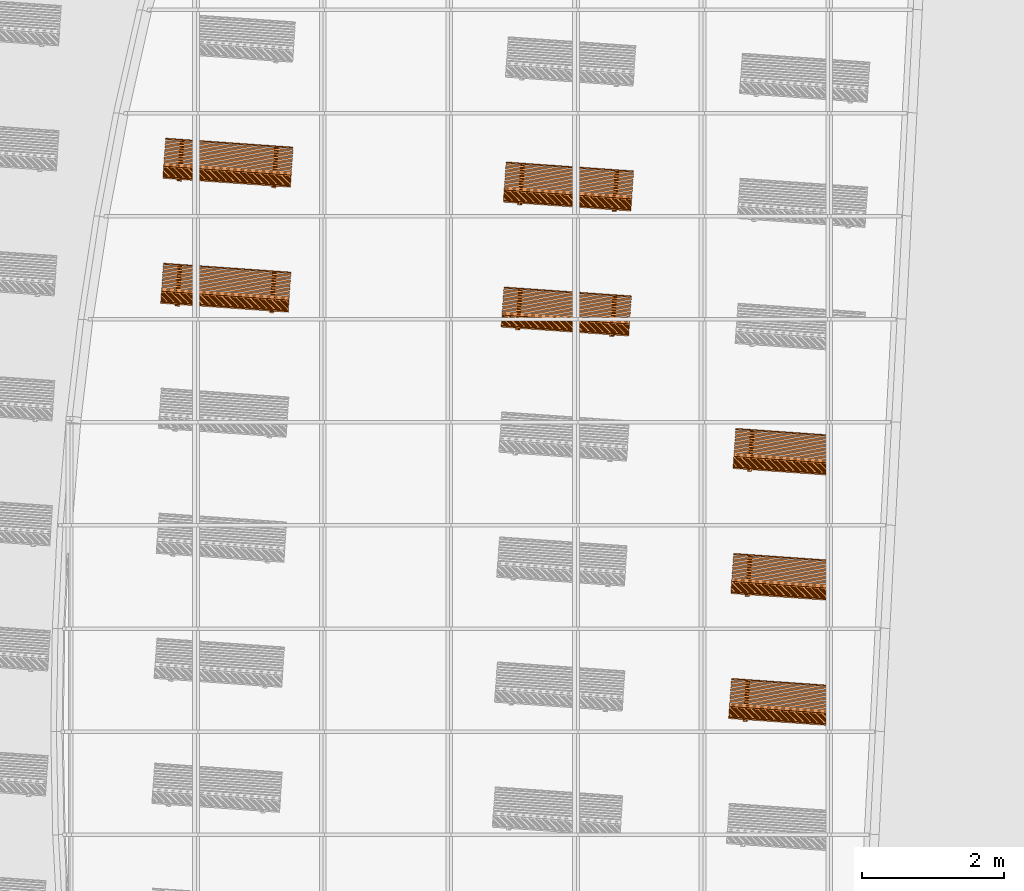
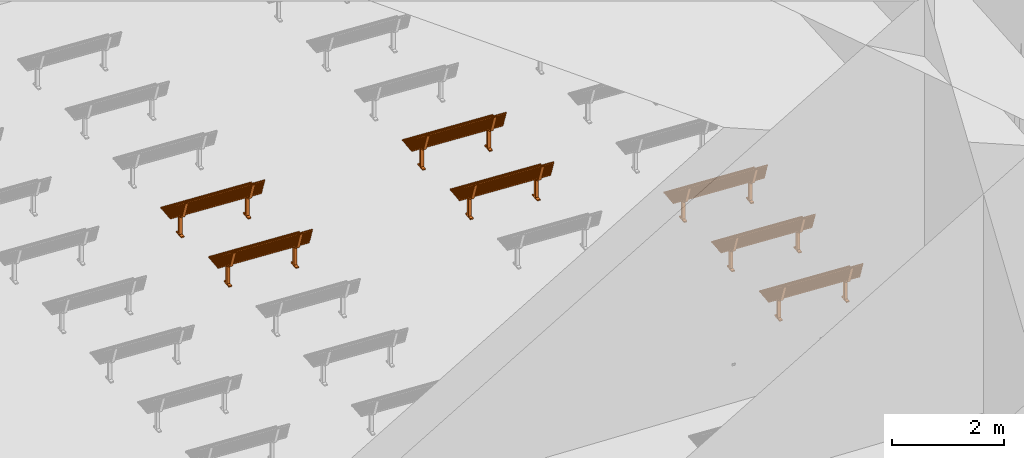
# One storey, part 78 of 82: 7 proxies.
"""IFC2X3 building model written with IfcOpenShell, lengths in millimetres."""

from ifc_helpers import new_model, entity, si_unit, converted_unit, derived_unit, direction, frame, frame_2d, origin, origin_2d_with_axis, place, context, subcontext, project, spatial, polyline, circle_curve, parameter, trimmed, segment, composite_curve, rectangle, outline, extrude, source, transform, mapped, material, material_list, element, save


model = new_model("IFC2X3")

# Units and contexts
model_context = context("Model", 3, precision=0.01, world=origin(), true_north=direction((6.12303176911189e-17, 1.0)))
body_context = subcontext(model_context, "Body", "Model", "MODEL_VIEW")
ifc_project = project(units=[si_unit("LENGTHUNIT", "METRE", prefix="MILLI"), si_unit("AREAUNIT", "SQUARE_METRE"), si_unit("VOLUMEUNIT", "CUBIC_METRE"), converted_unit("PLANEANGLEUNIT", "DEGREE", entity("IfcRatioMeasure", 0.0174532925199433), si_unit("PLANEANGLEUNIT", "RADIAN"), dimensions=[0, 0, 0, 0, 0, 0, 0]), si_unit("MASSUNIT", "GRAM", prefix="KILO"), derived_unit("MASSDENSITYUNIT", [(si_unit("MASSUNIT", "GRAM", prefix="KILO"), 1), (si_unit("LENGTHUNIT", "METRE"), -3)]), si_unit("TIMEUNIT", "SECOND"), si_unit("FREQUENCYUNIT", "HERTZ"), si_unit("THERMODYNAMICTEMPERATUREUNIT", "DEGREE_CELSIUS"), derived_unit("THERMALTRANSMITTANCEUNIT", [(si_unit("MASSUNIT", "GRAM", prefix="KILO"), 1), (si_unit("THERMODYNAMICTEMPERATUREUNIT", "KELVIN"), -1), (si_unit("TIMEUNIT", "SECOND"), -3)]), derived_unit("VOLUMETRICFLOWRATEUNIT", [(si_unit("LENGTHUNIT", "METRE"), 3), (si_unit("TIMEUNIT", "SECOND"), -1)]), si_unit("ELECTRICCURRENTUNIT", "AMPERE"), si_unit("ELECTRICVOLTAGEUNIT", "VOLT"), si_unit("POWERUNIT", "WATT"), si_unit("FORCEUNIT", "NEWTON", prefix="KILO"), si_unit("ILLUMINANCEUNIT", "LUX"), si_unit("LUMINOUSFLUXUNIT", "LUMEN"), si_unit("LUMINOUSINTENSITYUNIT", "CANDELA"), derived_unit("USERDEFINED", [(si_unit("MASSUNIT", "GRAM", prefix="KILO"), -1), (si_unit("LENGTHUNIT", "METRE"), -2), (si_unit("TIMEUNIT", "SECOND"), 3), (si_unit("LUMINOUSFLUXUNIT", "LUMEN"), 1)]), derived_unit("LINEARVELOCITYUNIT", [(si_unit("LENGTHUNIT", "METRE"), 1), (si_unit("TIMEUNIT", "SECOND"), -1)]), si_unit("PRESSUREUNIT", "PASCAL"), derived_unit("USERDEFINED", [(si_unit("LENGTHUNIT", "METRE"), -2), (si_unit("MASSUNIT", "GRAM", prefix="KILO"), 1), (si_unit("TIMEUNIT", "SECOND"), -2)])], contexts=[model_context])

# Site, building, storey
site_placement = place(None, origin())
site = spatial("IfcSite", under=ifc_project, at=site_placement, Name="表面", CompositionType="ELEMENT")
building_placement = place(site_placement, origin())
building = spatial("IfcBuilding", under=site, at=building_placement, CompositionType="ELEMENT")
storey_placement = place(building_placement, origin())
storey = spatial("IfcBuildingStorey", under=building, at=storey_placement, Name="1F", CompositionType="ELEMENT", Elevation=0.0)

# Proxies
ifc_material_1 = material(Name="木质 - 柚木")
ifc_material_2 = material(Name="金属 - 油漆面层 - 深灰色，粗面")
ifc_material_list_1 = material_list([ifc_material_1, ifc_material_2])
shared_shape_1 = source(origin(), body_context, "Body", "SweptSolid", [
    extrude(outline(composite_curve([segment(polyline([(0.797293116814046, -5.21607142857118), (12.0635827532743, -5.21607142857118)]), True, "CONTINUOUS"), segment(polyline([(12.0635827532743, -5.21607142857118), (12.0635827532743, 20.1839285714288)]), True, "CONTINUOUS"), segment(polyline([(12.0635827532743, 20.1839285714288), (0.951082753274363, 20.1839285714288)]), True, "CONTINUOUS"), segment(trimmed(circle_curve(frame_2d((0.951082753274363, 5.89642857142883), x_axis=(1.0, 0.0)), 14.2875), [parameter(89.9999999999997)], [parameter(179.999999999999)], True, "PARAMETER"), True, "CONTINUOUS"), segment(polyline([(-13.3364172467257, 5.89642857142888), (-13.3364172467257, -17.9160714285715)]), True, "CONTINUOUS"), segment(polyline([(-13.3364172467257, -17.9160714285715), (0.797293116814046, -17.9160714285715)]), True, "CONTINUOUS"), segment(polyline([(0.797293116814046, -17.9160714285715), (0.797293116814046, -5.21607142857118)]), True, "CONTINUOUS")], self_intersect=False)), frame((-900.0, -305.597293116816, 462.416071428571), z_axis=(1.0, 0.0, 0.0), x_axis=(0.0, 1.0, 0.0)), (0.0, 0.0, 1.0), 1800.0),
    extrude(outline(composite_curve([segment(polyline([(-12.6999999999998, -17.78), (0.0, -17.78)]), True, "CONTINUOUS"), segment(trimmed(circle_curve(frame_2d((0.0, -5.07999999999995), x_axis=(-0.939692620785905, -0.342020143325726)), 12.7), [parameter(69.9999999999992)], [parameter(160.0)], True, "PARAMETER"), True, "CONTINUOUS"), segment(polyline([(12.7, -5.07999999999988), (12.6999999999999, 20.3200000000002)]), True, "CONTINUOUS"), segment(polyline([(12.6999999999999, 20.3200000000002), (-12.7000000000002, 20.3200000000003)]), True, "CONTINUOUS"), segment(polyline([(-12.7000000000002, 20.3200000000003), (-12.6999999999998, -17.78)]), True, "CONTINUOUS")], self_intersect=False)), frame((-900.0, 231.374580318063, 850.885044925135), z_axis=(1.0, 0.0, 0.0), x_axis=(0.0, -0.939692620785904, 0.342020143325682)), (0.0, 0.0, 1.0), 1800.0),
    extrude(rectangle(XDim=1800.0, YDim=25.4, at=frame_2d((0.0, 1.68753899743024e-14), x_axis=(1.0, 0.0))), frame((0.0, -268.133710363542, 457.2), z_axis=(0.0, 0.0, 1.0), x_axis=(-1.0, 0.0, 0.0)), (0.0, 0.0, 1.0), 25.4),
    extrude(rectangle(XDim=1800.0, YDim=25.4, at=frame_2d((0.0, 1.68753899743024e-14), x_axis=(1.0, 0.0))), frame((0.0, -230.033710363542, 457.2), z_axis=(0.0, 0.0, 1.0), x_axis=(-1.0, 0.0, 0.0)), (0.0, 0.0, 1.0), 25.4),
    extrude(rectangle(XDim=1800.0, YDim=25.4, at=frame_2d((0.0, 1.68753899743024e-14), x_axis=(1.0, 0.0))), frame((0.0, -191.933710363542, 457.2), z_axis=(0.0, 0.0, 1.0), x_axis=(-1.0, 0.0, 0.0)), (0.0, 0.0, 1.0), 25.4),
    extrude(rectangle(XDim=1800.0, YDim=25.4, at=frame_2d((0.0, 1.68753899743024e-14), x_axis=(1.0, 0.0))), frame((0.0, -153.833710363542, 457.2), z_axis=(0.0, 0.0, 1.0), x_axis=(-1.0, 0.0, 0.0)), (0.0, 0.0, 1.0), 25.4),
    extrude(rectangle(XDim=1800.0, YDim=25.4, at=frame_2d((0.0, 1.68753899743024e-14), x_axis=(1.0, 0.0))), frame((0.0, -115.733710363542, 457.2), z_axis=(0.0, 0.0, 1.0), x_axis=(-1.0, 0.0, 0.0)), (0.0, 0.0, 1.0), 25.4),
    extrude(rectangle(XDim=1800.0, YDim=25.4, at=origin_2d_with_axis()), frame((0.0, -77.6337103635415, 457.2), z_axis=(0.0, 0.0, 1.0), x_axis=(-1.0, 0.0, 0.0)), (0.0, 0.0, 1.0), 25.4),
    extrude(rectangle(XDim=1800.0, YDim=25.4, at=origin_2d_with_axis()), frame((0.0, -39.5337103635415, 457.2), z_axis=(0.0, 0.0, 1.0), x_axis=(-1.0, 0.0, 0.0)), (0.0, 0.0, 1.0), 25.4),
    extrude(rectangle(XDim=1800.0, YDim=25.4, at=origin_2d_with_axis()), frame((0.0, -1.43371036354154, 457.2), z_axis=(0.0, 0.0, 1.0), x_axis=(-1.0, 0.0, 0.0)), (0.0, 0.0, 1.0), 25.4),
    extrude(rectangle(XDim=1800.0, YDim=25.4, at=origin_2d_with_axis()), frame((0.0, 36.6662896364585, 457.2), z_axis=(0.0, 0.0, 1.0), x_axis=(-1.0, 0.0, 0.0)), (0.0, 0.0, 1.0), 25.4),
    extrude(rectangle(XDim=25.4, YDim=25.4, at=frame_2d((3.10862446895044e-14, -1.33226762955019e-13), x_axis=(0.0, 1.0))), frame((-900.0, 137.551614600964, 593.108565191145), z_axis=(1.0, 0.0, 0.0), x_axis=(0.0, -0.939692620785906, 0.342020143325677)), (0.0, 0.0, 1.0), 1800.0),
    extrude(rectangle(XDim=25.4, YDim=25.4000000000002, at=frame_2d((-8.61533067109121e-14, 4.08562073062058e-14), x_axis=(0.0, 1.0))), frame((-900.0, 150.582582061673, 628.910854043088), z_axis=(1.0, 0.0, 0.0), x_axis=(0.0, -0.939692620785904, 0.342020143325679)), (0.0, 0.0, 1.0), 1800.0),
    extrude(rectangle(XDim=25.4000000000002, YDim=25.4, at=frame_2d((-3.19744231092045e-14, -1.15463194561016e-14), x_axis=(0.0, 1.0))), frame((-900.0, 111.489679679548, 521.503987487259), z_axis=(1.0, 0.0, 0.0), x_axis=(0.0, -0.939692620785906, 0.342020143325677)), (0.0, 0.0, 1.0), 1800.0),
    extrude(rectangle(XDim=25.4, YDim=25.3999999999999, at=frame_2d((0.0, 0.0), x_axis=(0.0, 1.0))), frame((-900.0, 124.520647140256, 557.306276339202), z_axis=(1.0, 0.0, 0.0), x_axis=(0.0, -0.939692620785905, 0.342020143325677)), (0.0, 0.0, 1.0), 1800.0),
    extrude(rectangle(XDim=25.3999999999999, YDim=25.4, at=frame_2d((-3.10862446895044e-14, -1.06581410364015e-14), x_axis=(0.0, 1.0))), frame((-900.0, 189.675484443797, 736.317720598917), z_axis=(1.0, 0.0, 0.0), x_axis=(0.0, -0.939692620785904, 0.342020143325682)), (0.0, 0.0, 1.0), 1800.0),
    extrude(rectangle(XDim=25.3999999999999, YDim=25.4000000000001, at=frame_2d((-3.10862446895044e-14, -1.33226762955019e-14), x_axis=(0.0, 1.0))), frame((-900.0, 202.706451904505, 772.12000945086), z_axis=(1.0, 0.0, 0.0), x_axis=(0.0, -0.939692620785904, 0.34202014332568)), (0.0, 0.0, 1.0), 1800.0),
    extrude(rectangle(XDim=25.4, YDim=25.3999999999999, at=frame_2d((0.0, 0.0), x_axis=(0.0, 1.0))), frame((-900.0, 163.613549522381, 664.713142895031), z_axis=(1.0, 0.0, 0.0), x_axis=(0.0, -0.939692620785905, 0.342020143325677)), (0.0, 0.0, 1.0), 1800.0),
    extrude(rectangle(XDim=25.4, YDim=25.4, at=frame_2d((-7.99360577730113e-15, -7.63833440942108e-14), x_axis=(0.0, 1.0))), frame((-900.0, 176.644516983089, 700.515431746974), z_axis=(1.0, 0.0, 0.0), x_axis=(0.0, -0.939692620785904, 0.342020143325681)), (0.0, 0.0, 1.0), 1800.0),
    extrude(rectangle(XDim=25.4, YDim=25.3999999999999, at=frame_2d((3.19744231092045e-14, 1.06581410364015e-14), x_axis=(0.0, 1.0))), frame((-900.0, 215.737419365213, 807.922298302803), z_axis=(1.0, 0.0, 0.0), x_axis=(0.0, -0.939692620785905, 0.342020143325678)), (0.0, 0.0, 1.0), 1800.0),
    extrude(rectangle(XDim=25.4000000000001, YDim=25.3999999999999, at=frame_2d((-1.33226762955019e-14, -9.76996261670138e-15), x_axis=(0.0, 1.0))), frame((-900.0, 96.4732295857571, 493.845543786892), z_axis=(1.0, 0.0, 0.0), x_axis=(0.0, -0.81915204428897, 0.573576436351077)), (0.0, 0.0, 1.0), 1800.0),
    extrude(rectangle(XDim=25.4, YDim=25.4000000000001, at=frame_2d((4.44089209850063e-15, 1.68753899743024e-14), x_axis=(1.0, 0.0))), frame((-900.0, 68.061957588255, 472.784050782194), z_axis=(1.0, 0.0, 0.0), x_axis=(0.0, -0.258819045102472, 0.965925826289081)), (0.0, 0.0, 1.0), 1800.0),
    extrude(outline(composite_curve([segment(polyline([(344.97581690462, -133.451056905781), (370.37581690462, -133.451056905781)]), True, "CONTINUOUS"), segment(polyline([(370.37581690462, -133.451056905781), (370.37581690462, 69.7489430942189)]), True, "CONTINUOUS"), segment(polyline([(370.37581690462, 69.7489430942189), (344.97581690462, 69.7489430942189)]), True, "CONTINUOUS"), segment(polyline([(344.97581690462, 69.7489430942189), (344.97581690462, -6.45105690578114)]), True, "CONTINUOUS"), segment(polyline([(344.97581690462, -6.45105690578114), (-61.4241830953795, -6.45105690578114)]), True, "CONTINUOUS"), segment(polyline([(-61.4241830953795, -6.45105690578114), (-61.4241830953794, 25.2857644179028)]), True, "CONTINUOUS"), segment(trimmed(circle_curve(frame_2d((-150.324183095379, 25.2857644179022), x_axis=(0.0, 1.0)), 88.8999999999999), [parameter(270.0)], [parameter(340.0)], True, "PARAMETER"), True, "CONTINUOUS"), segment(polyline([(-119.918592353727, 108.824438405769), (-483.896145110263, 241.301433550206)]), True, "CONTINUOUS"), segment(polyline([(-483.896145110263, 241.301433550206), (-488.239800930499, 229.367337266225)]), True, "CONTINUOUS"), segment(trimmed(circle_curve(frame_2d((-476.305704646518, 225.023681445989), x_axis=(0.0, 1.0)), 12.7), [parameter(69.9999999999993)], [parameter(160.0)], True, "PARAMETER"), True, "CONTINUOUS"), segment(polyline([(-480.649360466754, 213.089585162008), (-128.6059039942, 84.9562458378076)]), True, "CONTINUOUS"), segment(trimmed(circle_curve(frame_2d((-150.32418309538, 25.2857644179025), x_axis=(0.0, 1.0)), 63.5), [parameter(270.0)], [parameter(340.0)], True, "PARAMETER"), False, "CONTINUOUS"), segment(polyline([(-86.8241830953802, 25.2857644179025), (-86.8241830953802, -336.651056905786)]), True, "CONTINUOUS"), segment(polyline([(-86.8241830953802, -336.651056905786), (-61.4241830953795, -336.651056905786)]), True, "CONTINUOUS"), segment(polyline([(-61.4241830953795, -336.651056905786), (-61.4241830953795, -57.2510569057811)]), True, "CONTINUOUS"), segment(polyline([(-61.4241830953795, -57.2510569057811), (344.97581690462, -57.2510569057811)]), True, "CONTINUOUS"), segment(polyline([(344.97581690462, -57.2510569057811), (344.97581690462, -133.451056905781)]), True, "CONTINUOUS")], self_intersect=False)), frame((633.973659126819, 31.8510569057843, 370.37581690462), z_axis=(1.0, 0.0, 0.0), x_axis=(0.0, 0.0, -1.0)), (0.0, 0.0, 1.0), 62.8263408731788),
    extrude(outline(composite_curve([segment(polyline([(344.97581690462, -133.451056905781), (370.37581690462, -133.451056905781)]), True, "CONTINUOUS"), segment(polyline([(370.37581690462, -133.451056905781), (370.37581690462, 69.7489430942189)]), True, "CONTINUOUS"), segment(polyline([(370.37581690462, 69.7489430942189), (344.97581690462, 69.7489430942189)]), True, "CONTINUOUS"), segment(polyline([(344.97581690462, 69.7489430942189), (344.97581690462, -6.45105690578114)]), True, "CONTINUOUS"), segment(polyline([(344.97581690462, -6.45105690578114), (-61.4241830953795, -6.45105690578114)]), True, "CONTINUOUS"), segment(polyline([(-61.4241830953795, -6.45105690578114), (-61.4241830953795, 25.2857644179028)]), True, "CONTINUOUS"), segment(trimmed(circle_curve(frame_2d((-150.32418309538, 25.2857644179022), x_axis=(0.0, 1.0)), 88.9), [parameter(270.0)], [parameter(340.0)], True, "PARAMETER"), True, "CONTINUOUS"), segment(polyline([(-119.918592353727, 108.824438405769), (-483.896145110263, 241.301433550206)]), True, "CONTINUOUS"), segment(polyline([(-483.896145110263, 241.301433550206), (-488.239800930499, 229.367337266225)]), True, "CONTINUOUS"), segment(trimmed(circle_curve(frame_2d((-476.305704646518, 225.023681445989), x_axis=(0.0, 1.0)), 12.7), [parameter(69.9999999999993)], [parameter(160.0)], True, "PARAMETER"), True, "CONTINUOUS"), segment(polyline([(-480.649360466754, 213.089585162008), (-128.6059039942, 84.9562458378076)]), True, "CONTINUOUS"), segment(trimmed(circle_curve(frame_2d((-150.32418309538, 25.2857644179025), x_axis=(0.0, 1.0)), 63.5), [parameter(270.0)], [parameter(340.0)], True, "PARAMETER"), False, "CONTINUOUS"), segment(polyline([(-86.8241830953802, 25.2857644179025), (-86.8241830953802, -336.651056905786)]), True, "CONTINUOUS"), segment(polyline([(-86.8241830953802, -336.651056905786), (-61.4241830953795, -336.651056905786)]), True, "CONTINUOUS"), segment(polyline([(-61.4241830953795, -336.651056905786), (-61.4241830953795, -57.2510569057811)]), True, "CONTINUOUS"), segment(polyline([(-61.4241830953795, -57.2510569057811), (344.97581690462, -57.2510569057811)]), True, "CONTINUOUS"), segment(polyline([(344.97581690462, -57.2510569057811), (344.97581690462, -133.451056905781)]), True, "CONTINUOUS")], self_intersect=False)), frame((-696.799999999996, 31.8510569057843, 370.37581690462), z_axis=(1.0, 0.0, 0.0), x_axis=(0.0, 0.0, -1.0)), (0.0, 0.0, 1.0), 63.8916859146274),
])
proxy_1_placement = place(storey_placement, frame((-23588.4281950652, -10105.8162580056, 0.0), z_axis=(0.0, 0.0, 1.0), x_axis=(-0.997564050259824, 0.0697564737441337, 0.0)))
element("IfcBuildingElementProxy", 1, at=proxy_1_placement, inside=storey, material=ifc_material_list_1, Name="长椅:1800 mm", ObjectType="1800 mm", context=body_context, shape_type="MappedRepresentation", body=[
    mapped(shared_shape_1, transform((0.0, 0.0, 0.0), scale=1.0)),
])
ifc_material_list_2 = material_list([ifc_material_1, ifc_material_2])
proxy_2_placement = place(storey_placement, frame((-23619.1171600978, -11863.9858872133, 0.0), z_axis=(0.0, 0.0, 1.0), x_axis=(-0.997564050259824, 0.0697564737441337, 0.0)))
element("IfcBuildingElementProxy", 2, at=proxy_2_placement, inside=storey, material=ifc_material_list_2, Name="长椅:1800 mm", ObjectType="1800 mm", context=body_context, shape_type="MappedRepresentation", body=[
    mapped(shared_shape_1, transform((0.0, 0.0, 0.0), scale=1.0)),
])
ifc_material_list_3 = material_list([ifc_material_1, ifc_material_2])
proxy_3_placement = place(storey_placement, frame((-20357.844759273, -13852.3518797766, 0.0), z_axis=(0.0, 0.0, 1.0), x_axis=(-0.997564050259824, 0.0697564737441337, 0.0)))
element("IfcBuildingElementProxy", 3, at=proxy_3_placement, inside=storey, material=ifc_material_list_3, Name="长椅:1800 mm", ObjectType="1800 mm", context=body_context, shape_type="MappedRepresentation", body=[
    mapped(shared_shape_1, transform((0.0, 0.0, 0.0), scale=1.0)),
])
ifc_material_list_4 = material_list([ifc_material_1, ifc_material_2])
proxy_4_placement = place(storey_placement, frame((-20388.5337243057, -15610.5215089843, 0.0), z_axis=(0.0, 0.0, 1.0), x_axis=(-0.997564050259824, 0.0697564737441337, 0.0)))
element("IfcBuildingElementProxy", 4, at=proxy_4_placement, inside=storey, material=ifc_material_list_4, Name="长椅:1800 mm", ObjectType="1800 mm", context=body_context, shape_type="MappedRepresentation", body=[
    mapped(shared_shape_1, transform((0.0, 0.0, 0.0), scale=1.0)),
])
ifc_material_list_5 = material_list([ifc_material_1, ifc_material_2])
proxy_5_placement = place(storey_placement, frame((-20419.2226893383, -17368.691138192, 0.0), z_axis=(0.0, 0.0, 1.0), x_axis=(-0.997564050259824, 0.0697564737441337, 0.0)))
element("IfcBuildingElementProxy", 5, at=proxy_5_placement, inside=storey, material=ifc_material_list_5, Name="长椅:1800 mm", ObjectType="1800 mm", context=body_context, shape_type="MappedRepresentation", body=[
    mapped(shared_shape_1, transform((0.0, 0.0, 0.0), scale=1.0)),
])
ifc_material_list_6 = material_list([ifc_material_1, ifc_material_2])
shared_shape_2 = source(origin(), body_context, "Body", "SweptSolid", [
    extrude(outline(composite_curve([segment(polyline([(5.21607142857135, -0.797293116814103), (17.9160714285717, -0.797293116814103)]), True, "CONTINUOUS"), segment(polyline([(17.9160714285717, -0.797293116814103), (17.9160714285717, 13.3364172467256)]), True, "CONTINUOUS"), segment(polyline([(17.9160714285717, 13.3364172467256), (-5.89642857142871, 13.3364172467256)]), True, "CONTINUOUS"), segment(trimmed(circle_curve(frame_2d((-5.89642857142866, -0.95108275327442), x_axis=(0.0, -1.0)), 14.2875), [parameter(180.000000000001)], [parameter(270.0)], True, "PARAMETER"), True, "CONTINUOUS"), segment(polyline([(-20.1839285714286, -0.95108275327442), (-20.1839285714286, -12.0635827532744)]), True, "CONTINUOUS"), segment(polyline([(-20.1839285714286, -12.0635827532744), (5.21607142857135, -12.0635827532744)]), True, "CONTINUOUS"), segment(polyline([(5.21607142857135, -12.0635827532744), (5.21607142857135, -0.797293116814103)]), True, "CONTINUOUS")], self_intersect=False)), frame((-900.0, 305.597293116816, 462.416071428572), z_axis=(1.0, 0.0, 0.0), x_axis=(0.0, 0.0, -1.0)), (0.0, 0.0, 1.0), 1800.0),
    extrude(outline(composite_curve([segment(polyline([(-17.7799999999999, -12.6999999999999), (20.3200000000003, -12.6999999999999)]), True, "CONTINUOUS"), segment(polyline([(20.3200000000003, -12.6999999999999), (20.3199999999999, 12.7000000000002)]), True, "CONTINUOUS"), segment(polyline([(20.3199999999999, 12.7000000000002), (-5.08000000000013, 12.7)]), True, "CONTINUOUS"), segment(trimmed(circle_curve(frame_2d((-5.08000000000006, 0.0), x_axis=(-0.342020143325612, -0.939692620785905)), 12.7), [parameter(200.0)], [parameter(290.000000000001)], True, "PARAMETER"), True, "CONTINUOUS"), segment(polyline([(-17.7800000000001, 0.0), (-17.7799999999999, -12.6999999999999)]), True, "CONTINUOUS")], self_intersect=False)), frame((-900.0, -231.374580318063, 850.885044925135), z_axis=(1.0, 0.0, 0.0), x_axis=(0.0, 0.342020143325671, -0.939692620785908)), (0.0, 0.0, 1.0), 1800.0),
    extrude(rectangle(XDim=25.4, YDim=1800.0, at=frame_2d((-1.68753899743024e-14, 0.0), x_axis=(1.0, 0.0))), frame((0.0, 268.133710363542, 457.2), z_axis=(0.0, 0.0, 1.0), x_axis=(0.0, 1.0, 0.0)), (0.0, 0.0, 1.0), 25.4),
    extrude(rectangle(XDim=25.4, YDim=1800.0, at=frame_2d((-1.68753899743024e-14, 0.0), x_axis=(1.0, 0.0))), frame((0.0, 230.033710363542, 457.2), z_axis=(0.0, 0.0, 1.0), x_axis=(0.0, 1.0, 0.0)), (0.0, 0.0, 1.0), 25.4),
    extrude(rectangle(XDim=25.4, YDim=1800.0, at=frame_2d((-1.68753899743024e-14, 0.0), x_axis=(1.0, 0.0))), frame((0.0, 191.933710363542, 457.2), z_axis=(0.0, 0.0, 1.0), x_axis=(0.0, 1.0, 0.0)), (0.0, 0.0, 1.0), 25.4),
    extrude(rectangle(XDim=25.4, YDim=1800.0, at=frame_2d((-1.68753899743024e-14, 0.0), x_axis=(1.0, 0.0))), frame((0.0, 153.833710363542, 457.2), z_axis=(0.0, 0.0, 1.0), x_axis=(0.0, 1.0, 0.0)), (0.0, 0.0, 1.0), 25.4),
    extrude(rectangle(XDim=25.4, YDim=1800.0, at=origin_2d_with_axis()), frame((0.0, 115.733710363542, 457.2), z_axis=(0.0, 0.0, 1.0), x_axis=(0.0, 1.0, 0.0)), (0.0, 0.0, 1.0), 25.4),
    extrude(rectangle(XDim=25.4, YDim=1800.0, at=origin_2d_with_axis()), frame((0.0, 77.6337103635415, 457.2), z_axis=(0.0, 0.0, 1.0), x_axis=(0.0, 1.0, 0.0)), (0.0, 0.0, 1.0), 25.4),
    extrude(rectangle(XDim=25.4, YDim=1800.0, at=origin_2d_with_axis()), frame((0.0, 39.5337103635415, 457.2), z_axis=(0.0, 0.0, 1.0), x_axis=(0.0, 1.0, 0.0)), (0.0, 0.0, 1.0), 25.4),
    extrude(rectangle(XDim=25.4, YDim=1800.0, at=origin_2d_with_axis()), frame((0.0, 1.43371036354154, 457.2), z_axis=(0.0, 0.0, 1.0), x_axis=(0.0, 1.0, 0.0)), (0.0, 0.0, 1.0), 25.4),
    extrude(rectangle(XDim=25.4, YDim=1800.0, at=origin_2d_with_axis()), frame((0.0, -36.6662896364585, 457.2), z_axis=(0.0, 0.0, 1.0), x_axis=(0.0, 1.0, 0.0)), (0.0, 0.0, 1.0), 25.4),
    extrude(rectangle(XDim=25.4, YDim=25.4, at=frame_2d((-1.33226762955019e-13, 3.01980662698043e-14), x_axis=(1.0, 0.0))), frame((-900.0, -137.551614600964, 593.108565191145), z_axis=(1.0, 0.0, 0.0), x_axis=(0.0, 0.342020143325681, -0.939692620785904)), (0.0, 0.0, 1.0), 1800.0),
    extrude(rectangle(XDim=25.4, YDim=25.4000000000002, at=frame_2d((3.99680288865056e-14, -8.61533067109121e-14), x_axis=(1.0, 0.0))), frame((-900.0, -150.582582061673, 628.910854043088), z_axis=(1.0, 0.0, 0.0), x_axis=(0.0, 0.342020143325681, -0.939692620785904)), (0.0, 0.0, 1.0), 1800.0),
    extrude(rectangle(XDim=25.4000000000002, YDim=25.4, at=frame_2d((-1.06581410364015e-14, -3.19744231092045e-14), x_axis=(1.0, 0.0))), frame((-900.0, -111.489679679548, 521.503987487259), z_axis=(1.0, 0.0, 0.0), x_axis=(0.0, 0.342020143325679, -0.939692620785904)), (0.0, 0.0, 1.0), 1800.0),
    extrude(rectangle(XDim=25.4, YDim=25.3999999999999, at=origin_2d_with_axis()), frame((-900.0, -124.520647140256, 557.306276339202), z_axis=(1.0, 0.0, 0.0), x_axis=(0.0, 0.342020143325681, -0.939692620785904)), (0.0, 0.0, 1.0), 1800.0),
    extrude(rectangle(XDim=25.3999999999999, YDim=25.4, at=frame_2d((-1.06581410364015e-14, -3.10862446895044e-14), x_axis=(1.0, 0.0))), frame((-900.0, -189.675484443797, 736.317720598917), z_axis=(1.0, 0.0, 0.0), x_axis=(0.0, 0.342020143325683, -0.939692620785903)), (0.0, 0.0, 1.0), 1800.0),
    extrude(rectangle(XDim=25.3999999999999, YDim=25.4000000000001, at=frame_2d((-1.33226762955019e-14, -3.19744231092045e-14), x_axis=(1.0, 0.0))), frame((-900.0, -202.706451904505, 772.12000945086), z_axis=(1.0, 0.0, 0.0), x_axis=(0.0, 0.342020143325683, -0.939692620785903)), (0.0, 0.0, 1.0), 1800.0),
    extrude(rectangle(XDim=25.4, YDim=25.3999999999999, at=origin_2d_with_axis()), frame((-900.0, -163.613549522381, 664.713142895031), z_axis=(1.0, 0.0, 0.0), x_axis=(0.0, 0.342020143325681, -0.939692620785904)), (0.0, 0.0, 1.0), 1800.0),
    extrude(rectangle(XDim=25.4, YDim=25.4, at=frame_2d((5.15143483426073e-14, -5.32907051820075e-14), x_axis=(1.0, 0.0))), frame((-900.0, -176.644516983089, 700.515431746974), z_axis=(1.0, 0.0, 0.0), x_axis=(0.0, 0.342020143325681, -0.939692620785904)), (0.0, 0.0, 1.0), 1800.0),
    extrude(rectangle(XDim=25.4, YDim=25.3999999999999, at=frame_2d((1.24344978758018e-14, 3.19744231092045e-14), x_axis=(1.0, 0.0))), frame((-900.0, -215.737419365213, 807.922298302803), z_axis=(1.0, 0.0, 0.0), x_axis=(0.0, 0.342020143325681, -0.939692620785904)), (0.0, 0.0, 1.0), 1800.0),
    extrude(rectangle(XDim=25.4000000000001, YDim=25.3999999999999, at=frame_2d((-9.76996261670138e-15, -1.4210854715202e-14), x_axis=(1.0, 0.0))), frame((-900.0, -96.4732295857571, 493.845543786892), z_axis=(1.0, 0.0, 0.0), x_axis=(0.0, 0.573576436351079, -0.819152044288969)), (0.0, 0.0, 1.0), 1800.0),
    extrude(rectangle(XDim=25.4, YDim=25.4000000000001, at=frame_2d((5.24025267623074e-14, -1.25233157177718e-13), x_axis=(0.0, 1.0))), frame((-900.0, -68.061957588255, 472.784050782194), z_axis=(1.0, 0.0, 0.0), x_axis=(0.0, 0.965925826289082, -0.258819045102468)), (0.0, 0.0, 1.0), 1800.0),
    extrude(outline(composite_curve([segment(polyline([(-133.451056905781, -344.97581690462), (-133.451056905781, -370.37581690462)]), True, "CONTINUOUS"), segment(polyline([(-133.451056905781, -370.37581690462), (69.7489430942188, -370.37581690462)]), True, "CONTINUOUS"), segment(polyline([(69.7489430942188, -370.37581690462), (69.7489430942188, -344.97581690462)]), True, "CONTINUOUS"), segment(polyline([(69.7489430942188, -344.97581690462), (-6.45105690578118, -344.97581690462)]), True, "CONTINUOUS"), segment(polyline([(-6.45105690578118, -344.97581690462), (-6.45105690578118, 61.4241830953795)]), True, "CONTINUOUS"), segment(polyline([(-6.45105690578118, 61.4241830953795), (25.2857644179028, 61.4241830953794)]), True, "CONTINUOUS"), segment(trimmed(circle_curve(frame_2d((25.2857644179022, 150.324183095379), x_axis=(1.0, 0.0)), 88.8999999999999), [parameter(270.0)], [parameter(340.0)], True, "PARAMETER"), True, "CONTINUOUS"), segment(polyline([(108.824438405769, 119.918592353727), (241.301433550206, 483.896145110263)]), True, "CONTINUOUS"), segment(polyline([(241.301433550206, 483.896145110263), (229.367337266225, 488.239800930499)]), True, "CONTINUOUS"), segment(trimmed(circle_curve(frame_2d((225.023681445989, 476.305704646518), x_axis=(1.0, 0.0)), 12.7), [parameter(69.9999999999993)], [parameter(160.0)], True, "PARAMETER"), True, "CONTINUOUS"), segment(polyline([(213.089585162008, 480.649360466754), (84.9562458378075, 128.6059039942)]), True, "CONTINUOUS"), segment(trimmed(circle_curve(frame_2d((25.2857644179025, 150.32418309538), x_axis=(1.0, 0.0)), 63.5), [parameter(270.0)], [parameter(340.0)], True, "PARAMETER"), False, "CONTINUOUS"), segment(polyline([(25.2857644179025, 86.8241830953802), (-336.651056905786, 86.8241830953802)]), True, "CONTINUOUS"), segment(polyline([(-336.651056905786, 86.8241830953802), (-336.651056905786, 61.4241830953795)]), True, "CONTINUOUS"), segment(polyline([(-336.651056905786, 61.4241830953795), (-57.2510569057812, 61.4241830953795)]), True, "CONTINUOUS"), segment(polyline([(-57.2510569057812, 61.4241830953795), (-57.2510569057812, -344.97581690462)]), True, "CONTINUOUS"), segment(polyline([(-57.2510569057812, -344.97581690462), (-133.451056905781, -344.97581690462)]), True, "CONTINUOUS")], self_intersect=False)), frame((633.973659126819, -31.8510569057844, 370.37581690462), z_axis=(-1.0, 0.0, 0.0), x_axis=(0.0, -1.0, 0.0)), (0.0, 0.0, -1.0), 62.8263408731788),
    extrude(outline(composite_curve([segment(polyline([(-133.451056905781, -344.97581690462), (-133.451056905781, -370.37581690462)]), True, "CONTINUOUS"), segment(polyline([(-133.451056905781, -370.37581690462), (69.7489430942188, -370.37581690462)]), True, "CONTINUOUS"), segment(polyline([(69.7489430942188, -370.37581690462), (69.7489430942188, -344.97581690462)]), True, "CONTINUOUS"), segment(polyline([(69.7489430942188, -344.97581690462), (-6.45105690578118, -344.97581690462)]), True, "CONTINUOUS"), segment(polyline([(-6.45105690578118, -344.97581690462), (-6.45105690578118, 61.4241830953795)]), True, "CONTINUOUS"), segment(polyline([(-6.45105690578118, 61.4241830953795), (25.2857644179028, 61.4241830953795)]), True, "CONTINUOUS"), segment(trimmed(circle_curve(frame_2d((25.2857644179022, 150.32418309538), x_axis=(1.0, 0.0)), 88.9), [parameter(270.0)], [parameter(340.0)], True, "PARAMETER"), True, "CONTINUOUS"), segment(polyline([(108.824438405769, 119.918592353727), (241.301433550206, 483.896145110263)]), True, "CONTINUOUS"), segment(polyline([(241.301433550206, 483.896145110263), (229.367337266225, 488.239800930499)]), True, "CONTINUOUS"), segment(trimmed(circle_curve(frame_2d((225.023681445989, 476.305704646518), x_axis=(1.0, 0.0)), 12.7), [parameter(69.9999999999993)], [parameter(160.0)], True, "PARAMETER"), True, "CONTINUOUS"), segment(polyline([(213.089585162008, 480.649360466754), (84.9562458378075, 128.6059039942)]), True, "CONTINUOUS"), segment(trimmed(circle_curve(frame_2d((25.2857644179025, 150.32418309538), x_axis=(1.0, 0.0)), 63.5), [parameter(270.0)], [parameter(340.0)], True, "PARAMETER"), False, "CONTINUOUS"), segment(polyline([(25.2857644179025, 86.8241830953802), (-336.651056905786, 86.8241830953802)]), True, "CONTINUOUS"), segment(polyline([(-336.651056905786, 86.8241830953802), (-336.651056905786, 61.4241830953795)]), True, "CONTINUOUS"), segment(polyline([(-336.651056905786, 61.4241830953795), (-57.2510569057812, 61.4241830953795)]), True, "CONTINUOUS"), segment(polyline([(-57.2510569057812, 61.4241830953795), (-57.2510569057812, -344.97581690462)]), True, "CONTINUOUS"), segment(polyline([(-57.2510569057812, -344.97581690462), (-133.451056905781, -344.97581690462)]), True, "CONTINUOUS")], self_intersect=False)), frame((-696.799999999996, -31.8510569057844, 370.37581690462), z_axis=(-1.0, 0.0, 0.0), x_axis=(0.0, -1.0, 0.0)), (0.0, 0.0, -1.0), 63.8916859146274),
])
proxy_6_placement = place(storey_placement, frame((-28376.7356363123, -9770.98518403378, 0.0), z_axis=(0.0, 0.0, 1.0), x_axis=(0.997564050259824, -0.0697564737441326, 0.0)))
element("IfcBuildingElementProxy", 6, at=proxy_6_placement, inside=storey, material=ifc_material_list_6, Name="长椅:1800 mm", ObjectType="1800 mm", context=body_context, shape_type="MappedRepresentation", body=[
    mapped(shared_shape_2, transform((0.0, 0.0, 0.0), scale=1.0)),
])
ifc_material_list_7 = material_list([ifc_material_1, ifc_material_2])
proxy_7_placement = place(storey_placement, frame((-28407.424601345, -11529.1548132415, 0.0), z_axis=(0.0, 0.0, 1.0), x_axis=(0.997564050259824, -0.0697564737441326, 0.0)))
element("IfcBuildingElementProxy", 7, at=proxy_7_placement, inside=storey, material=ifc_material_list_7, Name="长椅:1800 mm", ObjectType="1800 mm", context=body_context, shape_type="MappedRepresentation", body=[
    mapped(shared_shape_2, transform((0.0, 0.0, 0.0), scale=1.0)),
])

save(model, "model.ifc")
